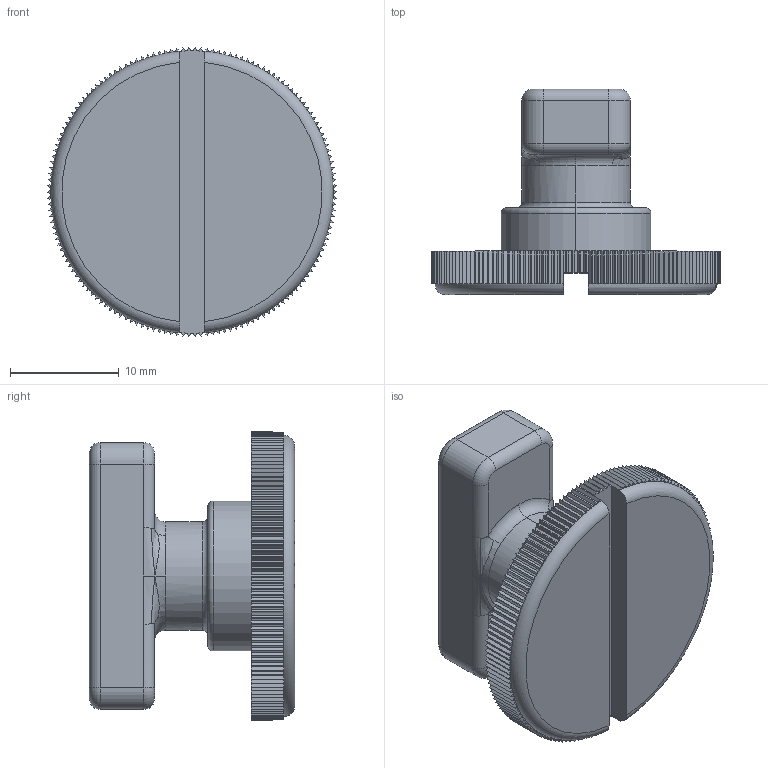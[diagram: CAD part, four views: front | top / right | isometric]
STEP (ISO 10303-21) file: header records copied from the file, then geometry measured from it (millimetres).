
FILE_DESCRIPTION (( 'STEP AP214' ), '1' );
FILE_NAME ('Çàïîðíàÿ ïëàøêà äëÿ êðîíøòåéíà ñ áîêîâûìè ëàïêàìè.STEP', '2024-10-31T13:08:02', ( '' ), ( '' ), 'SwSTEP 2.0', 'SolidWorks 2020', '' );
FILE_SCHEMA (( 'AUTOMOTIVE_DESIGN' ));
Length unit declared in the file: millimetre
Products named in the file (1): Çàïîðíàÿ ïëàøêà äëÿ êðîíøòåéíà ñ áîêîâûìè ëàïêàìè
Bounding box: 26.59 x 18.9 x 26.58 mm (x, y, z)
Volume: 4427.2 mm3; surface area: 2584.7 mm2
Topology: 1 solids, 1 shells, 654 faces, 1635 edges, 985 vertices
Faces by surface type: plane 456, cylinder 169, torus 17, bspline 12
Entity records: 20499 total; most frequent: CARTESIAN_POINT 4693, DIRECTION 3385, ORIENTED_EDGE 3270, EDGE_CURVE 1635, AXIS2_PLACEMENT_3D 1147, LINE 1091, VECTOR 1091, VERTEX_POINT 985
